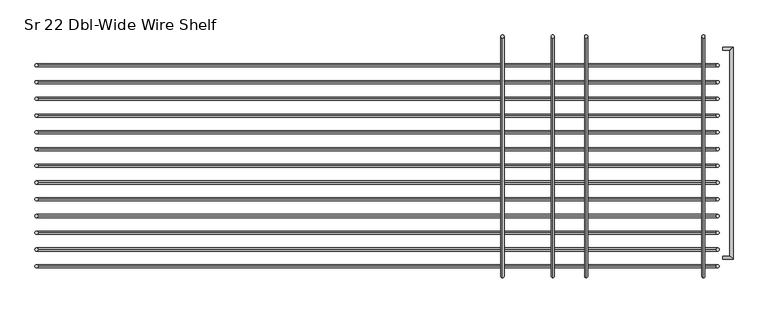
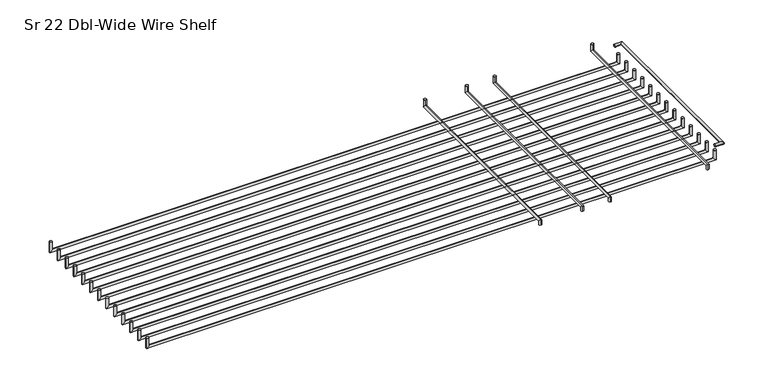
"""IFC4 building model written with IfcOpenShell, lengths in millimetres: furniture geometry, HermanMiller_Carts_CT521_CartShelf : Sr 22 Dbl-Wide Wire Shelf."""

from ifc_helpers import new_model, si_unit, frame, origin, place, context, project, spatial, circle_curve, ellipse_curve, source, transform, mapped, element, save
from ifc_brep_helpers import plane_surface, cylinder_surface, advanced_brep


def sr_22_dbl_wide_wire_shelf_730dbcda(model_context):
    return source(origin(), model_context, "Body", "AdvancedBrep", [
        advanced_brep(
        [(743.3373883, -178.26736, 2242.3501), (743.3373883, -183.04256, 2242.3501), (743.3373883, 133.81736, 2242.3501), (743.3373883, 138.59256, 2242.3501), (759.2123883, -183.04256, 2242.3501), (754.4371883, -178.26736, 2242.3501), (759.2123883, 138.59256, 2242.3501), (754.4371883, 133.81736, 2242.3501)],
        [
            (0, 1, circle_curve(frame((743.3373883, -180.65496, 2242.3501), z_axis=(-1.0, 0.0, 0.0), x_axis=(0.0, -1.0, 0.0)), 2.3876)),
            (1, 0, circle_curve(frame((743.3373883, -180.65496, 2242.3501), z_axis=(-1.0, 0.0, 0.0), x_axis=(0.0, -1.0, 0.0)), 2.3876)),
            (2, 3, circle_curve(frame((743.3373883, 136.20496, 2242.3501), z_axis=(-1.0, 0.0, 0.0), x_axis=(0.0, 1.0, 0.0)), 2.3876)),
            (3, 2, circle_curve(frame((743.3373883, 136.20496, 2242.3501), z_axis=(-1.0, 0.0, 0.0), x_axis=(0.0, 1.0, 0.0)), 2.3876)),
            (1, 4),
            (4, 5, ellipse_curve(frame((756.8247883, -180.65496, 2242.3501), z_axis=(-0.7071067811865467, -0.7071067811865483, 0.0), x_axis=(-0.7071067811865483, 0.7071067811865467, 0.0)), 3.3765763, 2.3876)),
            (5, 0),
            (5, 4, ellipse_curve(frame((756.8247883, -180.65496, 2242.3501), z_axis=(-0.7071067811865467, -0.7071067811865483, 0.0), x_axis=(-0.7071067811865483, 0.7071067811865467, 0.0)), 3.3765763, 2.3876)),
            (4, 6),
            (6, 7, ellipse_curve(frame((756.8247883, 136.20496, 2242.3501), z_axis=(0.7071067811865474, -0.7071067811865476, 0.0), x_axis=(-0.7071067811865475, -0.7071067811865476, 0.0)), 3.3765763, 2.3876)),
            (7, 5),
            (7, 6, ellipse_curve(frame((756.8247883, 136.20496, 2242.3501), z_axis=(0.7071067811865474, -0.7071067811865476, 0.0), x_axis=(-0.7071067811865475, -0.7071067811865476, 0.0)), 3.3765763, 2.3876)),
            (6, 3),
            (2, 7),
        ],
        [
            plane_surface(frame((743.3373883, -180.65496, 2242.3501), z_axis=(-1.0, 0.0, 0.0), x_axis=(0.0, 0.0, 1.0))),
            plane_surface(frame((743.3373883, 136.20496, 2242.3501), z_axis=(-1.0, 0.0, 0.0), x_axis=(0.0, 0.0, 1.0))),
            cylinder_surface(frame((743.3373883, -180.65496, 2242.3501), z_axis=(-1.0, 0.0, 0.0), x_axis=(0.0, -1.0, 0.0)), 2.3876),
            cylinder_surface(frame((756.8247883, -180.65496, 2242.3501), z_axis=(0.0, -1.0, 0.0), x_axis=(1.0, 0.0, 0.0)), 2.3876),
            cylinder_surface(frame((756.8247883, 136.20496, 2242.3501), z_axis=(1.0, 0.0, 0.0), x_axis=(0.0, 1.0, 0.0)), 2.3876),
        ],
        [
            (0, [[1, 2]]),
            (1, [[3, 4]]),
            (2, [[5, 6, 7, -2]]),
            (2, [[-7, 8, -5, -1]]),
            (3, [[9, 10, 11, -6]]),
            (3, [[-11, 12, -9, -8]]),
            (4, [[13, -3, 14, -10]]),
            (4, [[-14, -4, -13, -12]]),
        ],
    ),
        advanced_brep(
        [(733.4732983, 34.925, 2244.7377), (738.2357983, 34.925, 2244.7377), (733.4732983, 34.925, 2229.4596), (738.2357983, 34.925, 2224.6971), (-295.1886017, 34.925, 2229.4596), (-299.9511017, 34.925, 2224.6971), (-295.1886017, 34.925, 2244.7377), (-299.9511017, 34.925, 2244.7377)],
        [
            (0, 1, circle_curve(frame((735.8545483, 34.925, 2244.7377), z_axis=(0.0, 0.0, 1.0), x_axis=(1.0, 0.0, 0.0)), 2.38125)),
            (1, 0, circle_curve(frame((735.8545483, 34.925, 2244.7377), z_axis=(0.0, 0.0, 1.0), x_axis=(1.0, 0.0, 0.0)), 2.38125)),
            (0, 2),
            (2, 3, ellipse_curve(frame((735.8545483, 34.925, 2227.07835), z_axis=(0.7071067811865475, 0.0, 0.7071067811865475), x_axis=(-0.7071067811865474, 0.0, 0.7071067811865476)), 3.367596, 2.38125)),
            (3, 1),
            (3, 2, ellipse_curve(frame((735.8545483, 34.925, 2227.07835), z_axis=(0.7071067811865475, 0.0, 0.7071067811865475), x_axis=(-0.7071067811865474, 0.0, 0.7071067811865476)), 3.367596, 2.38125)),
            (2, 4),
            (4, 5, ellipse_curve(frame((-297.5698517, 34.925, 2227.07835), z_axis=(0.7071067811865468, 0.0, -0.7071067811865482), x_axis=(0.7071067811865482, 0.0, 0.7071067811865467)), 3.367596, 2.38125)),
            (5, 3),
            (5, 4, ellipse_curve(frame((-297.5698517, 34.925, 2227.07835), z_axis=(0.7071067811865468, 0.0, -0.7071067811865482), x_axis=(0.7071067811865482, 0.0, 0.7071067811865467)), 3.367596, 2.38125)),
            (6, 7, circle_curve(frame((-297.5698517, 34.925, 2244.7377), z_axis=(0.0, 0.0, 1.0), x_axis=(-1.0, 0.0, 0.0)), 2.38125)),
            (7, 6, circle_curve(frame((-297.5698517, 34.925, 2244.7377), z_axis=(0.0, 0.0, 1.0), x_axis=(-1.0, 0.0, 0.0)), 2.38125)),
            (4, 6),
            (7, 5),
        ],
        [
            plane_surface(frame((735.8545483, 34.925, 2244.7377), z_axis=(0.0, 0.0, 1.0), x_axis=(0.0, -1.0, 0.0))),
            cylinder_surface(frame((735.8545483, 34.925, 2244.7377), z_axis=(0.0, 0.0, 1.0), x_axis=(1.0, 0.0, 0.0)), 2.38125),
            cylinder_surface(frame((735.8545483, 34.925, 2227.07835), z_axis=(1.0, 0.0, 0.0), x_axis=(0.0, 0.0, -1.0)), 2.38125),
            plane_surface(frame((-297.5698517, 34.925, 2244.7377), z_axis=(0.0, 0.0, 1.0), x_axis=(0.0, -1.0, 0.0))),
            cylinder_surface(frame((-297.5698517, 34.925, 2227.07835), z_axis=(0.0, 0.0, -1.0), x_axis=(-1.0, 0.0, 0.0)), 2.38125),
        ],
        [
            (0, [[1, 2]]),
            (1, [[-1, 3, 4, 5]]),
            (1, [[-2, -5, 6, -3]]),
            (2, [[-4, 7, 8, 9]]),
            (2, [[-6, -9, 10, -7]]),
            (3, [[11, 12]]),
            (4, [[-8, 13, -12, 14]]),
            (4, [[-10, -14, -11, -13]]),
        ],
    ),
        advanced_brep(
        [(733.4732983, -15.875, 2244.7377), (738.2357983, -15.875, 2244.7377), (733.4732983, -15.875, 2229.4596), (738.2357983, -15.875, 2224.6971), (-295.1886017, -15.875, 2229.4596), (-299.9511017, -15.875, 2224.6971), (-295.1886017, -15.875, 2244.7377), (-299.9511017, -15.875, 2244.7377)],
        [
            (0, 1, circle_curve(frame((735.8545483, -15.875, 2244.7377), z_axis=(0.0, 0.0, 1.0), x_axis=(1.0, 0.0, 0.0)), 2.38125)),
            (1, 0, circle_curve(frame((735.8545483, -15.875, 2244.7377), z_axis=(0.0, 0.0, 1.0), x_axis=(1.0, 0.0, 0.0)), 2.38125)),
            (0, 2),
            (2, 3, ellipse_curve(frame((735.8545483, -15.875, 2227.07835), z_axis=(0.7071067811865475, 0.0, 0.7071067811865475), x_axis=(-0.7071067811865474, 0.0, 0.7071067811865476)), 3.367596, 2.38125)),
            (3, 1),
            (3, 2, ellipse_curve(frame((735.8545483, -15.875, 2227.07835), z_axis=(0.7071067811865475, 0.0, 0.7071067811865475), x_axis=(-0.7071067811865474, 0.0, 0.7071067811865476)), 3.367596, 2.38125)),
            (2, 4),
            (4, 5, ellipse_curve(frame((-297.5698517, -15.875, 2227.07835), z_axis=(0.7071067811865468, 0.0, -0.7071067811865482), x_axis=(0.7071067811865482, 0.0, 0.7071067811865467)), 3.367596, 2.38125)),
            (5, 3),
            (5, 4, ellipse_curve(frame((-297.5698517, -15.875, 2227.07835), z_axis=(0.7071067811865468, 0.0, -0.7071067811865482), x_axis=(0.7071067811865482, 0.0, 0.7071067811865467)), 3.367596, 2.38125)),
            (6, 7, circle_curve(frame((-297.5698517, -15.875, 2244.7377), z_axis=(0.0, 0.0, 1.0), x_axis=(-1.0, 0.0, 0.0)), 2.38125)),
            (7, 6, circle_curve(frame((-297.5698517, -15.875, 2244.7377), z_axis=(0.0, 0.0, 1.0), x_axis=(-1.0, 0.0, 0.0)), 2.38125)),
            (4, 6),
            (7, 5),
        ],
        [
            plane_surface(frame((735.8545483, -15.875, 2244.7377), z_axis=(0.0, 0.0, 1.0), x_axis=(0.0, -1.0, 0.0))),
            cylinder_surface(frame((735.8545483, -15.875, 2244.7377), z_axis=(0.0, 0.0, 1.0), x_axis=(1.0, 0.0, 0.0)), 2.38125),
            cylinder_surface(frame((735.8545483, -15.875, 2227.07835), z_axis=(1.0, 0.0, 0.0), x_axis=(0.0, 0.0, -1.0)), 2.38125),
            plane_surface(frame((-297.5698517, -15.875, 2244.7377), z_axis=(0.0, 0.0, 1.0), x_axis=(0.0, -1.0, 0.0))),
            cylinder_surface(frame((-297.5698517, -15.875, 2227.07835), z_axis=(0.0, 0.0, -1.0), x_axis=(-1.0, 0.0, 0.0)), 2.38125),
        ],
        [
            (0, [[1, 2]]),
            (1, [[-1, 3, 4, 5]]),
            (1, [[-2, -5, 6, -3]]),
            (2, [[-4, 7, 8, 9]]),
            (2, [[-6, -9, 10, -7]]),
            (3, [[11, 12]]),
            (4, [[-8, 13, -12, 14]]),
            (4, [[-10, -14, -11, -13]]),
        ],
    ),
        advanced_brep(
        [(733.4732983, -66.675, 2244.7377), (738.2357983, -66.675, 2244.7377), (733.4732983, -66.675, 2229.4596), (738.2357983, -66.675, 2224.6971), (-295.1886017, -66.675, 2229.4596), (-299.9511017, -66.675, 2224.6971), (-295.1886017, -66.675, 2244.7377), (-299.9511017, -66.675, 2244.7377)],
        [
            (0, 1, circle_curve(frame((735.8545483, -66.675, 2244.7377), z_axis=(0.0, 0.0, 1.0), x_axis=(1.0, 0.0, 0.0)), 2.38125)),
            (1, 0, circle_curve(frame((735.8545483, -66.675, 2244.7377), z_axis=(0.0, 0.0, 1.0), x_axis=(1.0, 0.0, 0.0)), 2.38125)),
            (0, 2),
            (2, 3, ellipse_curve(frame((735.8545483, -66.675, 2227.07835), z_axis=(0.7071067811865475, 0.0, 0.7071067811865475), x_axis=(-0.7071067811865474, 0.0, 0.7071067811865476)), 3.367596, 2.38125)),
            (3, 1),
            (3, 2, ellipse_curve(frame((735.8545483, -66.675, 2227.07835), z_axis=(0.7071067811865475, 0.0, 0.7071067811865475), x_axis=(-0.7071067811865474, 0.0, 0.7071067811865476)), 3.367596, 2.38125)),
            (2, 4),
            (4, 5, ellipse_curve(frame((-297.5698517, -66.675, 2227.07835), z_axis=(0.7071067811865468, 0.0, -0.7071067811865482), x_axis=(0.7071067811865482, 0.0, 0.7071067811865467)), 3.367596, 2.38125)),
            (5, 3),
            (5, 4, ellipse_curve(frame((-297.5698517, -66.675, 2227.07835), z_axis=(0.7071067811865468, 0.0, -0.7071067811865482), x_axis=(0.7071067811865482, 0.0, 0.7071067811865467)), 3.367596, 2.38125)),
            (6, 7, circle_curve(frame((-297.5698517, -66.675, 2244.7377), z_axis=(0.0, 0.0, 1.0), x_axis=(-1.0, 0.0, 0.0)), 2.38125)),
            (7, 6, circle_curve(frame((-297.5698517, -66.675, 2244.7377), z_axis=(0.0, 0.0, 1.0), x_axis=(-1.0, 0.0, 0.0)), 2.38125)),
            (4, 6),
            (7, 5),
        ],
        [
            plane_surface(frame((735.8545483, -66.675, 2244.7377), z_axis=(0.0, 0.0, 1.0), x_axis=(0.0, -1.0, 0.0))),
            cylinder_surface(frame((735.8545483, -66.675, 2244.7377), z_axis=(0.0, 0.0, 1.0), x_axis=(1.0, 0.0, 0.0)), 2.38125),
            cylinder_surface(frame((735.8545483, -66.675, 2227.07835), z_axis=(1.0, 0.0, 0.0), x_axis=(0.0, 0.0, -1.0)), 2.38125),
            plane_surface(frame((-297.5698517, -66.675, 2244.7377), z_axis=(0.0, 0.0, 1.0), x_axis=(0.0, -1.0, 0.0))),
            cylinder_surface(frame((-297.5698517, -66.675, 2227.07835), z_axis=(0.0, 0.0, -1.0), x_axis=(-1.0, 0.0, 0.0)), 2.38125),
        ],
        [
            (0, [[1, 2]]),
            (1, [[-1, 3, 4, 5]]),
            (1, [[-2, -5, 6, -3]]),
            (2, [[-4, 7, 8, 9]]),
            (2, [[-6, -9, 10, -7]]),
            (3, [[11, 12]]),
            (4, [[-8, 13, -12, 14]]),
            (4, [[-10, -14, -11, -13]]),
        ],
    ),
        advanced_brep(
        [(733.4732983, -117.475, 2244.7377), (738.2357983, -117.475, 2244.7377), (733.4732983, -117.475, 2229.4596), (738.2357983, -117.475, 2224.6971), (-295.1886017, -117.475, 2229.4596), (-299.9511017, -117.475, 2224.6971), (-295.1886017, -117.475, 2244.7377), (-299.9511017, -117.475, 2244.7377)],
        [
            (0, 1, circle_curve(frame((735.8545483, -117.475, 2244.7377), z_axis=(0.0, 0.0, 1.0), x_axis=(1.0, 0.0, 0.0)), 2.38125)),
            (1, 0, circle_curve(frame((735.8545483, -117.475, 2244.7377), z_axis=(0.0, 0.0, 1.0), x_axis=(1.0, 0.0, 0.0)), 2.38125)),
            (0, 2),
            (2, 3, ellipse_curve(frame((735.8545483, -117.475, 2227.07835), z_axis=(0.7071067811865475, 0.0, 0.7071067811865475), x_axis=(-0.7071067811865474, 0.0, 0.7071067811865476)), 3.367596, 2.38125)),
            (3, 1),
            (3, 2, ellipse_curve(frame((735.8545483, -117.475, 2227.07835), z_axis=(0.7071067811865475, 0.0, 0.7071067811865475), x_axis=(-0.7071067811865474, 0.0, 0.7071067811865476)), 3.367596, 2.38125)),
            (2, 4),
            (4, 5, ellipse_curve(frame((-297.5698517, -117.475, 2227.07835), z_axis=(0.7071067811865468, 0.0, -0.7071067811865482), x_axis=(0.7071067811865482, 0.0, 0.7071067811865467)), 3.367596, 2.38125)),
            (5, 3),
            (5, 4, ellipse_curve(frame((-297.5698517, -117.475, 2227.07835), z_axis=(0.7071067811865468, 0.0, -0.7071067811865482), x_axis=(0.7071067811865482, 0.0, 0.7071067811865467)), 3.367596, 2.38125)),
            (6, 7, circle_curve(frame((-297.5698517, -117.475, 2244.7377), z_axis=(0.0, 0.0, 1.0), x_axis=(-1.0, 0.0, 0.0)), 2.38125)),
            (7, 6, circle_curve(frame((-297.5698517, -117.475, 2244.7377), z_axis=(0.0, 0.0, 1.0), x_axis=(-1.0, 0.0, 0.0)), 2.38125)),
            (4, 6),
            (7, 5),
        ],
        [
            plane_surface(frame((735.8545483, -117.475, 2244.7377), z_axis=(0.0, 0.0, 1.0), x_axis=(0.0, -1.0, 0.0))),
            cylinder_surface(frame((735.8545483, -117.475, 2244.7377), z_axis=(0.0, 0.0, 1.0), x_axis=(1.0, 0.0, 0.0)), 2.38125),
            cylinder_surface(frame((735.8545483, -117.475, 2227.07835), z_axis=(1.0, 0.0, 0.0), x_axis=(0.0, 0.0, -1.0)), 2.38125),
            plane_surface(frame((-297.5698517, -117.475, 2244.7377), z_axis=(0.0, 0.0, 1.0), x_axis=(0.0, -1.0, 0.0))),
            cylinder_surface(frame((-297.5698517, -117.475, 2227.07835), z_axis=(0.0, 0.0, -1.0), x_axis=(-1.0, 0.0, 0.0)), 2.38125),
        ],
        [
            (0, [[1, 2]]),
            (1, [[-1, 3, 4, 5]]),
            (1, [[-2, -5, 6, -3]]),
            (2, [[-4, 7, 8, 9]]),
            (2, [[-6, -9, 10, -7]]),
            (3, [[11, 12]]),
            (4, [[-8, 13, -12, 14]]),
            (4, [[-10, -14, -11, -13]]),
        ],
    ),
        advanced_brep(
        [(733.4732983, -168.275, 2244.7377), (738.2357983, -168.275, 2244.7377), (733.4732983, -168.275, 2229.4596), (738.2357983, -168.275, 2224.6971), (-295.1886017, -168.275, 2229.4596), (-299.9511017, -168.275, 2224.6971), (-295.1886017, -168.275, 2244.7377), (-299.9511017, -168.275, 2244.7377)],
        [
            (0, 1, circle_curve(frame((735.8545483, -168.275, 2244.7377), z_axis=(0.0, 0.0, 1.0), x_axis=(1.0, 0.0, 0.0)), 2.38125)),
            (1, 0, circle_curve(frame((735.8545483, -168.275, 2244.7377), z_axis=(0.0, 0.0, 1.0), x_axis=(1.0, 0.0, 0.0)), 2.38125)),
            (0, 2),
            (2, 3, ellipse_curve(frame((735.8545483, -168.275, 2227.07835), z_axis=(0.7071067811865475, 0.0, 0.7071067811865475), x_axis=(-0.7071067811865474, 0.0, 0.7071067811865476)), 3.367596, 2.38125)),
            (3, 1),
            (3, 2, ellipse_curve(frame((735.8545483, -168.275, 2227.07835), z_axis=(0.7071067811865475, 0.0, 0.7071067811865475), x_axis=(-0.7071067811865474, 0.0, 0.7071067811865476)), 3.367596, 2.38125)),
            (2, 4),
            (4, 5, ellipse_curve(frame((-297.5698517, -168.275, 2227.07835), z_axis=(0.7071067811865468, 0.0, -0.7071067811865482), x_axis=(0.7071067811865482, 0.0, 0.7071067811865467)), 3.367596, 2.38125)),
            (5, 3),
            (5, 4, ellipse_curve(frame((-297.5698517, -168.275, 2227.07835), z_axis=(0.7071067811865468, 0.0, -0.7071067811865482), x_axis=(0.7071067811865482, 0.0, 0.7071067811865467)), 3.367596, 2.38125)),
            (6, 7, circle_curve(frame((-297.5698517, -168.275, 2244.7377), z_axis=(0.0, 0.0, 1.0), x_axis=(-1.0, 0.0, 0.0)), 2.38125)),
            (7, 6, circle_curve(frame((-297.5698517, -168.275, 2244.7377), z_axis=(0.0, 0.0, 1.0), x_axis=(-1.0, 0.0, 0.0)), 2.38125)),
            (4, 6),
            (7, 5),
        ],
        [
            plane_surface(frame((735.8545483, -168.275, 2244.7377), z_axis=(0.0, 0.0, 1.0), x_axis=(0.0, -1.0, 0.0))),
            cylinder_surface(frame((735.8545483, -168.275, 2244.7377), z_axis=(0.0, 0.0, 1.0), x_axis=(1.0, 0.0, 0.0)), 2.38125),
            cylinder_surface(frame((735.8545483, -168.275, 2227.07835), z_axis=(1.0, 0.0, 0.0), x_axis=(0.0, 0.0, -1.0)), 2.38125),
            plane_surface(frame((-297.5698517, -168.275, 2244.7377), z_axis=(0.0, 0.0, 1.0), x_axis=(0.0, -1.0, 0.0))),
            cylinder_surface(frame((-297.5698517, -168.275, 2227.07835), z_axis=(0.0, 0.0, -1.0), x_axis=(-1.0, 0.0, 0.0)), 2.38125),
        ],
        [
            (0, [[1, 2]]),
            (1, [[-1, 3, 4, 5]]),
            (1, [[-2, -5, 6, -3]]),
            (2, [[-4, 7, 8, 9]]),
            (2, [[-6, -9, 10, -7]]),
            (3, [[11, 12]]),
            (4, [[-8, 13, -12, 14]]),
            (4, [[-10, -14, -11, -13]]),
        ],
    ),
        advanced_brep(
        [(733.4732983, -193.675, 2244.7377), (738.2357983, -193.675, 2244.7377), (733.4732983, -193.675, 2229.4596), (738.2357983, -193.675, 2224.6971), (-295.1886017, -193.675, 2229.4596), (-299.9511017, -193.675, 2224.6971), (-295.1886017, -193.675, 2244.7377), (-299.9511017, -193.675, 2244.7377)],
        [
            (0, 1, circle_curve(frame((735.8545483, -193.675, 2244.7377), z_axis=(0.0, 0.0, 1.0), x_axis=(1.0, 0.0, 0.0)), 2.38125)),
            (1, 0, circle_curve(frame((735.8545483, -193.675, 2244.7377), z_axis=(0.0, 0.0, 1.0), x_axis=(1.0, 0.0, 0.0)), 2.38125)),
            (0, 2),
            (2, 3, ellipse_curve(frame((735.8545483, -193.675, 2227.07835), z_axis=(0.7071067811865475, 0.0, 0.7071067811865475), x_axis=(-0.7071067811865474, 0.0, 0.7071067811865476)), 3.367596, 2.38125)),
            (3, 1),
            (3, 2, ellipse_curve(frame((735.8545483, -193.675, 2227.07835), z_axis=(0.7071067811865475, 0.0, 0.7071067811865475), x_axis=(-0.7071067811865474, 0.0, 0.7071067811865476)), 3.367596, 2.38125)),
            (2, 4),
            (4, 5, ellipse_curve(frame((-297.5698517, -193.675, 2227.07835), z_axis=(0.7071067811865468, 0.0, -0.7071067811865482), x_axis=(0.7071067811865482, 0.0, 0.7071067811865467)), 3.367596, 2.38125)),
            (5, 3),
            (5, 4, ellipse_curve(frame((-297.5698517, -193.675, 2227.07835), z_axis=(0.7071067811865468, 0.0, -0.7071067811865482), x_axis=(0.7071067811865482, 0.0, 0.7071067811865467)), 3.367596, 2.38125)),
            (6, 7, circle_curve(frame((-297.5698517, -193.675, 2244.7377), z_axis=(0.0, 0.0, 1.0), x_axis=(-1.0, 0.0, 0.0)), 2.38125)),
            (7, 6, circle_curve(frame((-297.5698517, -193.675, 2244.7377), z_axis=(0.0, 0.0, 1.0), x_axis=(-1.0, 0.0, 0.0)), 2.38125)),
            (4, 6),
            (7, 5),
        ],
        [
            plane_surface(frame((735.8545483, -193.675, 2244.7377), z_axis=(0.0, 0.0, 1.0), x_axis=(0.0, -1.0, 0.0))),
            cylinder_surface(frame((735.8545483, -193.675, 2244.7377), z_axis=(0.0, 0.0, 1.0), x_axis=(1.0, 0.0, 0.0)), 2.38125),
            cylinder_surface(frame((735.8545483, -193.675, 2227.07835), z_axis=(1.0, 0.0, 0.0), x_axis=(0.0, 0.0, -1.0)), 2.38125),
            plane_surface(frame((-297.5698517, -193.675, 2244.7377), z_axis=(0.0, 0.0, 1.0), x_axis=(0.0, -1.0, 0.0))),
            cylinder_surface(frame((-297.5698517, -193.675, 2227.07835), z_axis=(0.0, 0.0, -1.0), x_axis=(-1.0, 0.0, 0.0)), 2.38125),
        ],
        [
            (0, [[1, 2]]),
            (1, [[-1, 3, 4, 5]]),
            (1, [[-2, -5, 6, -3]]),
            (2, [[-4, 7, 8, 9]]),
            (2, [[-6, -9, 10, -7]]),
            (3, [[11, 12]]),
            (4, [[-8, 13, -12, 14]]),
            (4, [[-10, -14, -11, -13]]),
        ],
    ),
        advanced_brep(
        [(733.4732983, -142.875, 2244.7377), (738.2357983, -142.875, 2244.7377), (733.4732983, -142.875, 2229.4596), (738.2357983, -142.875, 2224.6971), (-295.1886017, -142.875, 2229.4596), (-299.9511017, -142.875, 2224.6971), (-295.1886017, -142.875, 2244.7377), (-299.9511017, -142.875, 2244.7377)],
        [
            (0, 1, circle_curve(frame((735.8545483, -142.875, 2244.7377), z_axis=(0.0, 0.0, 1.0), x_axis=(1.0, 0.0, 0.0)), 2.38125)),
            (1, 0, circle_curve(frame((735.8545483, -142.875, 2244.7377), z_axis=(0.0, 0.0, 1.0), x_axis=(1.0, 0.0, 0.0)), 2.38125)),
            (0, 2),
            (2, 3, ellipse_curve(frame((735.8545483, -142.875, 2227.07835), z_axis=(0.7071067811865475, 0.0, 0.7071067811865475), x_axis=(-0.7071067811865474, 0.0, 0.7071067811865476)), 3.367596, 2.38125)),
            (3, 1),
            (3, 2, ellipse_curve(frame((735.8545483, -142.875, 2227.07835), z_axis=(0.7071067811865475, 0.0, 0.7071067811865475), x_axis=(-0.7071067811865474, 0.0, 0.7071067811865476)), 3.367596, 2.38125)),
            (2, 4),
            (4, 5, ellipse_curve(frame((-297.5698517, -142.875, 2227.07835), z_axis=(0.7071067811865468, 0.0, -0.7071067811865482), x_axis=(0.7071067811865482, 0.0, 0.7071067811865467)), 3.367596, 2.38125)),
            (5, 3),
            (5, 4, ellipse_curve(frame((-297.5698517, -142.875, 2227.07835), z_axis=(0.7071067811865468, 0.0, -0.7071067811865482), x_axis=(0.7071067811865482, 0.0, 0.7071067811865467)), 3.367596, 2.38125)),
            (6, 7, circle_curve(frame((-297.5698517, -142.875, 2244.7377), z_axis=(0.0, 0.0, 1.0), x_axis=(-1.0, 0.0, 0.0)), 2.38125)),
            (7, 6, circle_curve(frame((-297.5698517, -142.875, 2244.7377), z_axis=(0.0, 0.0, 1.0), x_axis=(-1.0, 0.0, 0.0)), 2.38125)),
            (4, 6),
            (7, 5),
        ],
        [
            plane_surface(frame((735.8545483, -142.875, 2244.7377), z_axis=(0.0, 0.0, 1.0), x_axis=(0.0, -1.0, 0.0))),
            cylinder_surface(frame((735.8545483, -142.875, 2244.7377), z_axis=(0.0, 0.0, 1.0), x_axis=(1.0, 0.0, 0.0)), 2.38125),
            cylinder_surface(frame((735.8545483, -142.875, 2227.07835), z_axis=(1.0, 0.0, 0.0), x_axis=(0.0, 0.0, -1.0)), 2.38125),
            plane_surface(frame((-297.5698517, -142.875, 2244.7377), z_axis=(0.0, 0.0, 1.0), x_axis=(0.0, -1.0, 0.0))),
            cylinder_surface(frame((-297.5698517, -142.875, 2227.07835), z_axis=(0.0, 0.0, -1.0), x_axis=(-1.0, 0.0, 0.0)), 2.38125),
        ],
        [
            (0, [[1, 2]]),
            (1, [[-1, 3, 4, 5]]),
            (1, [[-2, -5, 6, -3]]),
            (2, [[-4, 7, 8, 9]]),
            (2, [[-6, -9, 10, -7]]),
            (3, [[11, 12]]),
            (4, [[-8, 13, -12, 14]]),
            (4, [[-10, -14, -11, -13]]),
        ],
    ),
        advanced_brep(
        [(733.4732983, -92.075, 2244.7377), (738.2357983, -92.075, 2244.7377), (733.4732983, -92.075, 2229.4596), (738.2357983, -92.075, 2224.6971), (-295.1886017, -92.075, 2229.4596), (-299.9511017, -92.075, 2224.6971), (-295.1886017, -92.075, 2244.7377), (-299.9511017, -92.075, 2244.7377)],
        [
            (0, 1, circle_curve(frame((735.8545483, -92.075, 2244.7377), z_axis=(0.0, 0.0, 1.0), x_axis=(1.0, 0.0, 0.0)), 2.38125)),
            (1, 0, circle_curve(frame((735.8545483, -92.075, 2244.7377), z_axis=(0.0, 0.0, 1.0), x_axis=(1.0, 0.0, 0.0)), 2.38125)),
            (0, 2),
            (2, 3, ellipse_curve(frame((735.8545483, -92.075, 2227.07835), z_axis=(0.7071067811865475, 0.0, 0.7071067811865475), x_axis=(-0.7071067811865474, 0.0, 0.7071067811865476)), 3.367596, 2.38125)),
            (3, 1),
            (3, 2, ellipse_curve(frame((735.8545483, -92.075, 2227.07835), z_axis=(0.7071067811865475, 0.0, 0.7071067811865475), x_axis=(-0.7071067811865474, 0.0, 0.7071067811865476)), 3.367596, 2.38125)),
            (2, 4),
            (4, 5, ellipse_curve(frame((-297.5698517, -92.075, 2227.07835), z_axis=(0.7071067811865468, 0.0, -0.7071067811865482), x_axis=(0.7071067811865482, 0.0, 0.7071067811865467)), 3.367596, 2.38125)),
            (5, 3),
            (5, 4, ellipse_curve(frame((-297.5698517, -92.075, 2227.07835), z_axis=(0.7071067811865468, 0.0, -0.7071067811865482), x_axis=(0.7071067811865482, 0.0, 0.7071067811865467)), 3.367596, 2.38125)),
            (6, 7, circle_curve(frame((-297.5698517, -92.075, 2244.7377), z_axis=(0.0, 0.0, 1.0), x_axis=(-1.0, 0.0, 0.0)), 2.38125)),
            (7, 6, circle_curve(frame((-297.5698517, -92.075, 2244.7377), z_axis=(0.0, 0.0, 1.0), x_axis=(-1.0, 0.0, 0.0)), 2.38125)),
            (4, 6),
            (7, 5),
        ],
        [
            plane_surface(frame((735.8545483, -92.075, 2244.7377), z_axis=(0.0, 0.0, 1.0), x_axis=(0.0, -1.0, 0.0))),
            cylinder_surface(frame((735.8545483, -92.075, 2244.7377), z_axis=(0.0, 0.0, 1.0), x_axis=(1.0, 0.0, 0.0)), 2.38125),
            cylinder_surface(frame((735.8545483, -92.075, 2227.07835), z_axis=(1.0, 0.0, 0.0), x_axis=(0.0, 0.0, -1.0)), 2.38125),
            plane_surface(frame((-297.5698517, -92.075, 2244.7377), z_axis=(0.0, 0.0, 1.0), x_axis=(0.0, -1.0, 0.0))),
            cylinder_surface(frame((-297.5698517, -92.075, 2227.07835), z_axis=(0.0, 0.0, -1.0), x_axis=(-1.0, 0.0, 0.0)), 2.38125),
        ],
        [
            (0, [[1, 2]]),
            (1, [[-1, 3, 4, 5]]),
            (1, [[-2, -5, 6, -3]]),
            (2, [[-4, 7, 8, 9]]),
            (2, [[-6, -9, 10, -7]]),
            (3, [[11, 12]]),
            (4, [[-8, 13, -12, 14]]),
            (4, [[-10, -14, -11, -13]]),
        ],
    ),
        advanced_brep(
        [(733.4732983, -41.275, 2244.7377), (738.2357983, -41.275, 2244.7377), (733.4732983, -41.275, 2229.4596), (738.2357983, -41.275, 2224.6971), (-295.1886017, -41.275, 2229.4596), (-299.9511017, -41.275, 2224.6971), (-295.1886017, -41.275, 2244.7377), (-299.9511017, -41.275, 2244.7377)],
        [
            (0, 1, circle_curve(frame((735.8545483, -41.275, 2244.7377), z_axis=(0.0, 0.0, 1.0), x_axis=(1.0, 0.0, 0.0)), 2.38125)),
            (1, 0, circle_curve(frame((735.8545483, -41.275, 2244.7377), z_axis=(0.0, 0.0, 1.0), x_axis=(1.0, 0.0, 0.0)), 2.38125)),
            (0, 2),
            (2, 3, ellipse_curve(frame((735.8545483, -41.275, 2227.07835), z_axis=(0.7071067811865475, 0.0, 0.7071067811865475), x_axis=(-0.7071067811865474, 0.0, 0.7071067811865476)), 3.367596, 2.38125)),
            (3, 1),
            (3, 2, ellipse_curve(frame((735.8545483, -41.275, 2227.07835), z_axis=(0.7071067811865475, 0.0, 0.7071067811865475), x_axis=(-0.7071067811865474, 0.0, 0.7071067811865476)), 3.367596, 2.38125)),
            (2, 4),
            (4, 5, ellipse_curve(frame((-297.5698517, -41.275, 2227.07835), z_axis=(0.7071067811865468, 0.0, -0.7071067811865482), x_axis=(0.7071067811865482, 0.0, 0.7071067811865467)), 3.367596, 2.38125)),
            (5, 3),
            (5, 4, ellipse_curve(frame((-297.5698517, -41.275, 2227.07835), z_axis=(0.7071067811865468, 0.0, -0.7071067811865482), x_axis=(0.7071067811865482, 0.0, 0.7071067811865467)), 3.367596, 2.38125)),
            (6, 7, circle_curve(frame((-297.5698517, -41.275, 2244.7377), z_axis=(0.0, 0.0, 1.0), x_axis=(-1.0, 0.0, 0.0)), 2.38125)),
            (7, 6, circle_curve(frame((-297.5698517, -41.275, 2244.7377), z_axis=(0.0, 0.0, 1.0), x_axis=(-1.0, 0.0, 0.0)), 2.38125)),
            (4, 6),
            (7, 5),
        ],
        [
            plane_surface(frame((735.8545483, -41.275, 2244.7377), z_axis=(0.0, 0.0, 1.0), x_axis=(0.0, -1.0, 0.0))),
            cylinder_surface(frame((735.8545483, -41.275, 2244.7377), z_axis=(0.0, 0.0, 1.0), x_axis=(1.0, 0.0, 0.0)), 2.38125),
            cylinder_surface(frame((735.8545483, -41.275, 2227.07835), z_axis=(1.0, 0.0, 0.0), x_axis=(0.0, 0.0, -1.0)), 2.38125),
            plane_surface(frame((-297.5698517, -41.275, 2244.7377), z_axis=(0.0, 0.0, 1.0), x_axis=(0.0, -1.0, 0.0))),
            cylinder_surface(frame((-297.5698517, -41.275, 2227.07835), z_axis=(0.0, 0.0, -1.0), x_axis=(-1.0, 0.0, 0.0)), 2.38125),
        ],
        [
            (0, [[1, 2]]),
            (1, [[-1, 3, 4, 5]]),
            (1, [[-2, -5, 6, -3]]),
            (2, [[-4, 7, 8, 9]]),
            (2, [[-6, -9, 10, -7]]),
            (3, [[11, 12]]),
            (4, [[-8, 13, -12, 14]]),
            (4, [[-10, -14, -11, -13]]),
        ],
    ),
        advanced_brep(
        [(733.4732983, 9.525, 2244.7377), (738.2357983, 9.525, 2244.7377), (733.4732983, 9.525, 2229.4596), (738.2357983, 9.525, 2224.6971), (-295.1886017, 9.525, 2229.4596), (-299.9511017, 9.525, 2224.6971), (-295.1886017, 9.525, 2244.7377), (-299.9511017, 9.525, 2244.7377)],
        [
            (0, 1, circle_curve(frame((735.8545483, 9.525, 2244.7377), z_axis=(0.0, 0.0, 1.0), x_axis=(1.0, 0.0, 0.0)), 2.38125)),
            (1, 0, circle_curve(frame((735.8545483, 9.525, 2244.7377), z_axis=(0.0, 0.0, 1.0), x_axis=(1.0, 0.0, 0.0)), 2.38125)),
            (0, 2),
            (2, 3, ellipse_curve(frame((735.8545483, 9.525, 2227.07835), z_axis=(0.7071067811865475, 0.0, 0.7071067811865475), x_axis=(-0.7071067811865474, 0.0, 0.7071067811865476)), 3.367596, 2.38125)),
            (3, 1),
            (3, 2, ellipse_curve(frame((735.8545483, 9.525, 2227.07835), z_axis=(0.7071067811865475, 0.0, 0.7071067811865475), x_axis=(-0.7071067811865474, 0.0, 0.7071067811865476)), 3.367596, 2.38125)),
            (2, 4),
            (4, 5, ellipse_curve(frame((-297.5698517, 9.525, 2227.07835), z_axis=(0.7071067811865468, 0.0, -0.7071067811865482), x_axis=(0.7071067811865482, 0.0, 0.7071067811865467)), 3.367596, 2.38125)),
            (5, 3),
            (5, 4, ellipse_curve(frame((-297.5698517, 9.525, 2227.07835), z_axis=(0.7071067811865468, 0.0, -0.7071067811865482), x_axis=(0.7071067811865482, 0.0, 0.7071067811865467)), 3.367596, 2.38125)),
            (6, 7, circle_curve(frame((-297.5698517, 9.525, 2244.7377), z_axis=(0.0, 0.0, 1.0), x_axis=(-1.0, 0.0, 0.0)), 2.38125)),
            (7, 6, circle_curve(frame((-297.5698517, 9.525, 2244.7377), z_axis=(0.0, 0.0, 1.0), x_axis=(-1.0, 0.0, 0.0)), 2.38125)),
            (4, 6),
            (7, 5),
        ],
        [
            plane_surface(frame((735.8545483, 9.525, 2244.7377), z_axis=(0.0, 0.0, 1.0), x_axis=(0.0, -1.0, 0.0))),
            cylinder_surface(frame((735.8545483, 9.525, 2244.7377), z_axis=(0.0, 0.0, 1.0), x_axis=(1.0, 0.0, 0.0)), 2.38125),
            cylinder_surface(frame((735.8545483, 9.525, 2227.07835), z_axis=(1.0, 0.0, 0.0), x_axis=(0.0, 0.0, -1.0)), 2.38125),
            plane_surface(frame((-297.5698517, 9.525, 2244.7377), z_axis=(0.0, 0.0, 1.0), x_axis=(0.0, -1.0, 0.0))),
            cylinder_surface(frame((-297.5698517, 9.525, 2227.07835), z_axis=(0.0, 0.0, -1.0), x_axis=(-1.0, 0.0, 0.0)), 2.38125),
        ],
        [
            (0, [[1, 2]]),
            (1, [[-1, 3, 4, 5]]),
            (1, [[-2, -5, 6, -3]]),
            (2, [[-4, 7, 8, 9]]),
            (2, [[-6, -9, 10, -7]]),
            (3, [[11, 12]]),
            (4, [[-8, 13, -12, 14]]),
            (4, [[-10, -14, -11, -13]]),
        ],
    ),
        advanced_brep(
        [(733.4732983, 60.325, 2244.7377), (738.2357983, 60.325, 2244.7377), (733.4732983, 60.325, 2229.4596), (738.2357983, 60.325, 2224.6971), (-295.1886017, 60.325, 2229.4596), (-299.9511017, 60.325, 2224.6971), (-295.1886017, 60.325, 2244.7377), (-299.9511017, 60.325, 2244.7377)],
        [
            (0, 1, circle_curve(frame((735.8545483, 60.325, 2244.7377), z_axis=(0.0, 0.0, 1.0), x_axis=(1.0, 0.0, 0.0)), 2.38125)),
            (1, 0, circle_curve(frame((735.8545483, 60.325, 2244.7377), z_axis=(0.0, 0.0, 1.0), x_axis=(1.0, 0.0, 0.0)), 2.38125)),
            (0, 2),
            (2, 3, ellipse_curve(frame((735.8545483, 60.325, 2227.07835), z_axis=(0.7071067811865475, 0.0, 0.7071067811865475), x_axis=(-0.7071067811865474, 0.0, 0.7071067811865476)), 3.367596, 2.38125)),
            (3, 1),
            (3, 2, ellipse_curve(frame((735.8545483, 60.325, 2227.07835), z_axis=(0.7071067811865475, 0.0, 0.7071067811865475), x_axis=(-0.7071067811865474, 0.0, 0.7071067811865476)), 3.367596, 2.38125)),
            (2, 4),
            (4, 5, ellipse_curve(frame((-297.5698517, 60.325, 2227.07835), z_axis=(0.7071067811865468, 0.0, -0.7071067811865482), x_axis=(0.7071067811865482, 0.0, 0.7071067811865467)), 3.367596, 2.38125)),
            (5, 3),
            (5, 4, ellipse_curve(frame((-297.5698517, 60.325, 2227.07835), z_axis=(0.7071067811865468, 0.0, -0.7071067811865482), x_axis=(0.7071067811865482, 0.0, 0.7071067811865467)), 3.367596, 2.38125)),
            (6, 7, circle_curve(frame((-297.5698517, 60.325, 2244.7377), z_axis=(0.0, 0.0, 1.0), x_axis=(-1.0, 0.0, 0.0)), 2.38125)),
            (7, 6, circle_curve(frame((-297.5698517, 60.325, 2244.7377), z_axis=(0.0, 0.0, 1.0), x_axis=(-1.0, 0.0, 0.0)), 2.38125)),
            (4, 6),
            (7, 5),
        ],
        [
            plane_surface(frame((735.8545483, 60.325, 2244.7377), z_axis=(0.0, 0.0, 1.0), x_axis=(0.0, -1.0, 0.0))),
            cylinder_surface(frame((735.8545483, 60.325, 2244.7377), z_axis=(0.0, 0.0, 1.0), x_axis=(1.0, 0.0, 0.0)), 2.38125),
            cylinder_surface(frame((735.8545483, 60.325, 2227.07835), z_axis=(1.0, 0.0, 0.0), x_axis=(0.0, 0.0, -1.0)), 2.38125),
            plane_surface(frame((-297.5698517, 60.325, 2244.7377), z_axis=(0.0, 0.0, 1.0), x_axis=(0.0, -1.0, 0.0))),
            cylinder_surface(frame((-297.5698517, 60.325, 2227.07835), z_axis=(0.0, 0.0, -1.0), x_axis=(-1.0, 0.0, 0.0)), 2.38125),
        ],
        [
            (0, [[1, 2]]),
            (1, [[-1, 3, 4, 5]]),
            (1, [[-2, -5, 6, -3]]),
            (2, [[-4, 7, 8, 9]]),
            (2, [[-6, -9, 10, -7]]),
            (3, [[11, 12]]),
            (4, [[-8, 13, -12, 14]]),
            (4, [[-10, -14, -11, -13]]),
        ],
    ),
        advanced_brep(
        [(733.4732983, 85.725, 2244.7377), (738.2357983, 85.725, 2244.7377), (733.4732983, 85.725, 2229.4596), (738.2357983, 85.725, 2224.6971), (-295.1886017, 85.725, 2229.4596), (-299.9511017, 85.725, 2224.6971), (-295.1886017, 85.725, 2244.7377), (-299.9511017, 85.725, 2244.7377)],
        [
            (0, 1, circle_curve(frame((735.8545483, 85.725, 2244.7377), z_axis=(0.0, 0.0, 1.0), x_axis=(1.0, 0.0, 0.0)), 2.38125)),
            (1, 0, circle_curve(frame((735.8545483, 85.725, 2244.7377), z_axis=(0.0, 0.0, 1.0), x_axis=(1.0, 0.0, 0.0)), 2.38125)),
            (0, 2),
            (2, 3, ellipse_curve(frame((735.8545483, 85.725, 2227.07835), z_axis=(0.7071067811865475, 0.0, 0.7071067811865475), x_axis=(-0.7071067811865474, 0.0, 0.7071067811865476)), 3.367596, 2.38125)),
            (3, 1),
            (3, 2, ellipse_curve(frame((735.8545483, 85.725, 2227.07835), z_axis=(0.7071067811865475, 0.0, 0.7071067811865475), x_axis=(-0.7071067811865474, 0.0, 0.7071067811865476)), 3.367596, 2.38125)),
            (2, 4),
            (4, 5, ellipse_curve(frame((-297.5698517, 85.725, 2227.07835), z_axis=(0.7071067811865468, 0.0, -0.7071067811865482), x_axis=(0.7071067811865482, 0.0, 0.7071067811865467)), 3.367596, 2.38125)),
            (5, 3),
            (5, 4, ellipse_curve(frame((-297.5698517, 85.725, 2227.07835), z_axis=(0.7071067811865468, 0.0, -0.7071067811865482), x_axis=(0.7071067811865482, 0.0, 0.7071067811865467)), 3.367596, 2.38125)),
            (6, 7, circle_curve(frame((-297.5698517, 85.725, 2244.7377), z_axis=(0.0, 0.0, 1.0), x_axis=(-1.0, 0.0, 0.0)), 2.38125)),
            (7, 6, circle_curve(frame((-297.5698517, 85.725, 2244.7377), z_axis=(0.0, 0.0, 1.0), x_axis=(-1.0, 0.0, 0.0)), 2.38125)),
            (4, 6),
            (7, 5),
        ],
        [
            plane_surface(frame((735.8545483, 85.725, 2244.7377), z_axis=(0.0, 0.0, 1.0), x_axis=(0.0, -1.0, 0.0))),
            cylinder_surface(frame((735.8545483, 85.725, 2244.7377), z_axis=(0.0, 0.0, 1.0), x_axis=(1.0, 0.0, 0.0)), 2.38125),
            cylinder_surface(frame((735.8545483, 85.725, 2227.07835), z_axis=(1.0, 0.0, 0.0), x_axis=(0.0, 0.0, -1.0)), 2.38125),
            plane_surface(frame((-297.5698517, 85.725, 2244.7377), z_axis=(0.0, 0.0, 1.0), x_axis=(0.0, -1.0, 0.0))),
            cylinder_surface(frame((-297.5698517, 85.725, 2227.07835), z_axis=(0.0, 0.0, -1.0), x_axis=(-1.0, 0.0, 0.0)), 2.38125),
        ],
        [
            (0, [[1, 2]]),
            (1, [[-1, 3, 4, 5]]),
            (1, [[-2, -5, 6, -3]]),
            (2, [[-4, 7, 8, 9]]),
            (2, [[-6, -9, 10, -7]]),
            (3, [[11, 12]]),
            (4, [[-8, 13, -12, 14]]),
            (4, [[-10, -14, -11, -13]]),
        ],
    ),
        advanced_brep(
        [(733.4732983, 111.125, 2244.7377), (738.2357983, 111.125, 2244.7377), (733.4732983, 111.125, 2229.4596), (738.2357983, 111.125, 2224.6971), (-295.1886017, 111.125, 2229.4596), (-299.9511017, 111.125, 2224.6971), (-295.1886017, 111.125, 2244.7377), (-299.9511017, 111.125, 2244.7377)],
        [
            (0, 1, circle_curve(frame((735.8545483, 111.125, 2244.7377), z_axis=(0.0, 0.0, 1.0), x_axis=(1.0, 0.0, 0.0)), 2.38125)),
            (1, 0, circle_curve(frame((735.8545483, 111.125, 2244.7377), z_axis=(0.0, 0.0, 1.0), x_axis=(1.0, 0.0, 0.0)), 2.38125)),
            (0, 2),
            (2, 3, ellipse_curve(frame((735.8545483, 111.125, 2227.07835), z_axis=(0.7071067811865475, 0.0, 0.7071067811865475), x_axis=(-0.7071067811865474, 0.0, 0.7071067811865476)), 3.367596, 2.38125)),
            (3, 1),
            (3, 2, ellipse_curve(frame((735.8545483, 111.125, 2227.07835), z_axis=(0.7071067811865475, 0.0, 0.7071067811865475), x_axis=(-0.7071067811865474, 0.0, 0.7071067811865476)), 3.367596, 2.38125)),
            (2, 4),
            (4, 5, ellipse_curve(frame((-297.5698517, 111.125, 2227.07835), z_axis=(0.7071067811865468, 0.0, -0.7071067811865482), x_axis=(0.7071067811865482, 0.0, 0.7071067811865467)), 3.367596, 2.38125)),
            (5, 3),
            (5, 4, ellipse_curve(frame((-297.5698517, 111.125, 2227.07835), z_axis=(0.7071067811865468, 0.0, -0.7071067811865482), x_axis=(0.7071067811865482, 0.0, 0.7071067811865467)), 3.367596, 2.38125)),
            (6, 7, circle_curve(frame((-297.5698517, 111.125, 2244.7377), z_axis=(0.0, 0.0, 1.0), x_axis=(-1.0, 0.0, 0.0)), 2.38125)),
            (7, 6, circle_curve(frame((-297.5698517, 111.125, 2244.7377), z_axis=(0.0, 0.0, 1.0), x_axis=(-1.0, 0.0, 0.0)), 2.38125)),
            (4, 6),
            (7, 5),
        ],
        [
            plane_surface(frame((735.8545483, 111.125, 2244.7377), z_axis=(0.0, 0.0, 1.0), x_axis=(0.0, -1.0, 0.0))),
            cylinder_surface(frame((735.8545483, 111.125, 2244.7377), z_axis=(0.0, 0.0, 1.0), x_axis=(1.0, 0.0, 0.0)), 2.38125),
            cylinder_surface(frame((735.8545483, 111.125, 2227.07835), z_axis=(1.0, 0.0, 0.0), x_axis=(0.0, 0.0, -1.0)), 2.38125),
            plane_surface(frame((-297.5698517, 111.125, 2244.7377), z_axis=(0.0, 0.0, 1.0), x_axis=(0.0, -1.0, 0.0))),
            cylinder_surface(frame((-297.5698517, 111.125, 2227.07835), z_axis=(0.0, 0.0, -1.0), x_axis=(-1.0, 0.0, 0.0)), 2.38125),
        ],
        [
            (0, [[1, 2]]),
            (1, [[-1, 3, 4, 5]]),
            (1, [[-2, -5, 6, -3]]),
            (2, [[-4, 7, 8, 9]]),
            (2, [[-6, -9, 10, -7]]),
            (3, [[11, 12]]),
            (4, [[-8, 13, -12, 14]]),
            (4, [[-10, -14, -11, -13]]),
        ],
    ),
        advanced_brep(
        [(714.1223083, -206.38135, 2224.6971), (714.1223083, -211.14385, 2224.6971), (714.1223083, -206.38135, 2229.4596), (714.1223083, -211.14385, 2234.2221), (714.1223083, 157.2983379, 2229.4596), (714.1223083, 152.5358379, 2234.2221), (714.1223083, 157.2983379, 2244.7377), (714.1223083, 152.5358379, 2244.7377)],
        [
            (0, 1, circle_curve(frame((714.1223083, -208.7626, 2224.6971), z_axis=(0.0, 0.0, -1.0), x_axis=(0.0, -1.0, 0.0)), 2.38125)),
            (1, 0, circle_curve(frame((714.1223083, -208.7626, 2224.6971), z_axis=(0.0, 0.0, -1.0), x_axis=(0.0, -1.0, 0.0)), 2.38125)),
            (0, 2),
            (2, 3, ellipse_curve(frame((714.1223083, -208.7626, 2231.84085), z_axis=(0.0, -0.7071067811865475, -0.7071067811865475), x_axis=(0.0, 0.7071067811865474, -0.7071067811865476)), 3.367596, 2.38125)),
            (3, 1),
            (3, 2, ellipse_curve(frame((714.1223083, -208.7626, 2231.84085), z_axis=(0.0, -0.7071067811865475, -0.7071067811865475), x_axis=(0.0, 0.7071067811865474, -0.7071067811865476)), 3.367596, 2.38125)),
            (2, 4),
            (4, 5, ellipse_curve(frame((714.1223083, 154.9170879, 2231.84085), z_axis=(0.0, -0.7071067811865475, -0.7071067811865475), x_axis=(0.0, -0.7071067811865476, 0.7071067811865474)), 3.367596, 2.38125)),
            (5, 3),
            (5, 4, ellipse_curve(frame((714.1223083, 154.9170879, 2231.84085), z_axis=(0.0, -0.7071067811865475, -0.7071067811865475), x_axis=(0.0, -0.7071067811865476, 0.7071067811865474)), 3.367596, 2.38125)),
            (6, 7, circle_curve(frame((714.1223083, 154.9170879, 2244.7377), z_axis=(0.0, 0.0, 1.0), x_axis=(0.0, -1.0, 0.0)), 2.38125)),
            (7, 6, circle_curve(frame((714.1223083, 154.9170879, 2244.7377), z_axis=(0.0, 0.0, 1.0), x_axis=(0.0, -1.0, 0.0)), 2.38125)),
            (4, 6),
            (7, 5),
        ],
        [
            plane_surface(frame((714.1223083, -208.7626, 2224.6971), z_axis=(0.0, 0.0, -1.0), x_axis=(1.0, 0.0, 0.0))),
            cylinder_surface(frame((714.1223083, -208.7626, 2224.6971), z_axis=(0.0, 0.0, -1.0), x_axis=(0.0, -1.0, 0.0)), 2.38125),
            cylinder_surface(frame((714.1223083, -208.7626, 2231.84085), z_axis=(0.0, -1.0, 0.0), x_axis=(0.0, 0.0, 1.0)), 2.38125),
            plane_surface(frame((714.1223083, 154.9170879, 2244.7377), z_axis=(0.0, 0.0, 1.0), x_axis=(1.0, 0.0, 0.0))),
            cylinder_surface(frame((714.1223083, 154.9170879, 2231.84085), z_axis=(0.0, 0.0, -1.0), x_axis=(0.0, -1.0, 0.0)), 2.38125),
        ],
        [
            (0, [[1, 2]]),
            (1, [[-1, 3, 4, 5]]),
            (1, [[-2, -5, 6, -3]]),
            (2, [[-4, 7, 8, 9]]),
            (2, [[-6, -9, 10, -7]]),
            (3, [[11, 12]]),
            (4, [[-8, 13, -12, 14]]),
            (4, [[-10, -14, -11, -13]]),
        ],
    ),
        advanced_brep(
        [(409.3223083, -206.38135, 2224.6971), (409.3223083, -211.14385, 2224.6971), (409.3223083, -206.38135, 2229.4596), (409.3223083, -211.14385, 2234.2221), (409.3223083, 157.2983379, 2229.4596), (409.3223083, 152.5358379, 2234.2221), (409.3223083, 157.2983379, 2244.7377), (409.3223083, 152.5358379, 2244.7377)],
        [
            (0, 1, circle_curve(frame((409.3223083, -208.7626, 2224.6971), z_axis=(0.0, 0.0, -1.0), x_axis=(0.0, -1.0, 0.0)), 2.38125)),
            (1, 0, circle_curve(frame((409.3223083, -208.7626, 2224.6971), z_axis=(0.0, 0.0, -1.0), x_axis=(0.0, -1.0, 0.0)), 2.38125)),
            (0, 2),
            (2, 3, ellipse_curve(frame((409.3223083, -208.7626, 2231.84085), z_axis=(0.0, -0.7071067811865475, -0.7071067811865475), x_axis=(0.0, 0.7071067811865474, -0.7071067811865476)), 3.367596, 2.38125)),
            (3, 1),
            (3, 2, ellipse_curve(frame((409.3223083, -208.7626, 2231.84085), z_axis=(0.0, -0.7071067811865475, -0.7071067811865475), x_axis=(0.0, 0.7071067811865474, -0.7071067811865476)), 3.367596, 2.38125)),
            (2, 4),
            (4, 5, ellipse_curve(frame((409.3223083, 154.9170879, 2231.84085), z_axis=(0.0, -0.7071067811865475, -0.7071067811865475), x_axis=(0.0, -0.7071067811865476, 0.7071067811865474)), 3.367596, 2.38125)),
            (5, 3),
            (5, 4, ellipse_curve(frame((409.3223083, 154.9170879, 2231.84085), z_axis=(0.0, -0.7071067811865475, -0.7071067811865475), x_axis=(0.0, -0.7071067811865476, 0.7071067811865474)), 3.367596, 2.38125)),
            (6, 7, circle_curve(frame((409.3223083, 154.9170879, 2244.7377), z_axis=(0.0, 0.0, 1.0), x_axis=(0.0, -1.0, 0.0)), 2.38125)),
            (7, 6, circle_curve(frame((409.3223083, 154.9170879, 2244.7377), z_axis=(0.0, 0.0, 1.0), x_axis=(0.0, -1.0, 0.0)), 2.38125)),
            (4, 6),
            (7, 5),
        ],
        [
            plane_surface(frame((409.3223083, -208.7626, 2224.6971), z_axis=(0.0, 0.0, -1.0), x_axis=(1.0, 0.0, 0.0))),
            cylinder_surface(frame((409.3223083, -208.7626, 2224.6971), z_axis=(0.0, 0.0, -1.0), x_axis=(0.0, -1.0, 0.0)), 2.38125),
            cylinder_surface(frame((409.3223083, -208.7626, 2231.84085), z_axis=(0.0, -1.0, 0.0), x_axis=(0.0, 0.0, 1.0)), 2.38125),
            plane_surface(frame((409.3223083, 154.9170879, 2244.7377), z_axis=(0.0, 0.0, 1.0), x_axis=(1.0, 0.0, 0.0))),
            cylinder_surface(frame((409.3223083, 154.9170879, 2231.84085), z_axis=(0.0, 0.0, -1.0), x_axis=(0.0, -1.0, 0.0)), 2.38125),
        ],
        [
            (0, [[1, 2]]),
            (1, [[-1, 3, 4, 5]]),
            (1, [[-2, -5, 6, -3]]),
            (2, [[-4, 7, 8, 9]]),
            (2, [[-6, -9, 10, -7]]),
            (3, [[11, 12]]),
            (4, [[-8, 13, -12, 14]]),
            (4, [[-10, -14, -11, -13]]),
        ],
    ),
        advanced_brep(
        [(485.5223083, -206.38135, 2224.6971), (485.5223083, -211.14385, 2224.6971), (485.5223083, -206.38135, 2229.4596), (485.5223083, -211.14385, 2234.2221), (485.5223083, 157.2983379, 2229.4596), (485.5223083, 152.5358379, 2234.2221), (485.5223083, 157.2983379, 2244.7377), (485.5223083, 152.5358379, 2244.7377)],
        [
            (0, 1, circle_curve(frame((485.5223083, -208.7626, 2224.6971), z_axis=(0.0, 0.0, -1.0), x_axis=(0.0, -1.0, 0.0)), 2.38125)),
            (1, 0, circle_curve(frame((485.5223083, -208.7626, 2224.6971), z_axis=(0.0, 0.0, -1.0), x_axis=(0.0, -1.0, 0.0)), 2.38125)),
            (0, 2),
            (2, 3, ellipse_curve(frame((485.5223083, -208.7626, 2231.84085), z_axis=(0.0, -0.7071067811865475, -0.7071067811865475), x_axis=(0.0, 0.7071067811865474, -0.7071067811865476)), 3.367596, 2.38125)),
            (3, 1),
            (3, 2, ellipse_curve(frame((485.5223083, -208.7626, 2231.84085), z_axis=(0.0, -0.7071067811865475, -0.7071067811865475), x_axis=(0.0, 0.7071067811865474, -0.7071067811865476)), 3.367596, 2.38125)),
            (2, 4),
            (4, 5, ellipse_curve(frame((485.5223083, 154.9170879, 2231.84085), z_axis=(0.0, -0.7071067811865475, -0.7071067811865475), x_axis=(0.0, -0.7071067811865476, 0.7071067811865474)), 3.367596, 2.38125)),
            (5, 3),
            (5, 4, ellipse_curve(frame((485.5223083, 154.9170879, 2231.84085), z_axis=(0.0, -0.7071067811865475, -0.7071067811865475), x_axis=(0.0, -0.7071067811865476, 0.7071067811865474)), 3.367596, 2.38125)),
            (6, 7, circle_curve(frame((485.5223083, 154.9170879, 2244.7377), z_axis=(0.0, 0.0, 1.0), x_axis=(0.0, -1.0, 0.0)), 2.38125)),
            (7, 6, circle_curve(frame((485.5223083, 154.9170879, 2244.7377), z_axis=(0.0, 0.0, 1.0), x_axis=(0.0, -1.0, 0.0)), 2.38125)),
            (4, 6),
            (7, 5),
        ],
        [
            plane_surface(frame((485.5223083, -208.7626, 2224.6971), z_axis=(0.0, 0.0, -1.0), x_axis=(1.0, 0.0, 0.0))),
            cylinder_surface(frame((485.5223083, -208.7626, 2224.6971), z_axis=(0.0, 0.0, -1.0), x_axis=(0.0, -1.0, 0.0)), 2.38125),
            cylinder_surface(frame((485.5223083, -208.7626, 2231.84085), z_axis=(0.0, -1.0, 0.0), x_axis=(0.0, 0.0, 1.0)), 2.38125),
            plane_surface(frame((485.5223083, 154.9170879, 2244.7377), z_axis=(0.0, 0.0, 1.0), x_axis=(1.0, 0.0, 0.0))),
            cylinder_surface(frame((485.5223083, 154.9170879, 2231.84085), z_axis=(0.0, 0.0, -1.0), x_axis=(0.0, -1.0, 0.0)), 2.38125),
        ],
        [
            (0, [[1, 2]]),
            (1, [[-1, 3, 4, 5]]),
            (1, [[-2, -5, 6, -3]]),
            (2, [[-4, 7, 8, 9]]),
            (2, [[-6, -9, 10, -7]]),
            (3, [[11, 12]]),
            (4, [[-8, 13, -12, 14]]),
            (4, [[-10, -14, -11, -13]]),
        ],
    ),
        advanced_brep(
        [(536.3223083, -206.38135, 2224.6971), (536.3223083, -211.14385, 2224.6971), (536.3223083, -206.38135, 2229.4596), (536.3223083, -211.14385, 2234.2221), (536.3223083, 157.2983379, 2229.4596), (536.3223083, 152.5358379, 2234.2221), (536.3223083, 157.2983379, 2244.7377), (536.3223083, 152.5358379, 2244.7377)],
        [
            (0, 1, circle_curve(frame((536.3223083, -208.7626, 2224.6971), z_axis=(0.0, 0.0, -1.0), x_axis=(0.0, -1.0, 0.0)), 2.38125)),
            (1, 0, circle_curve(frame((536.3223083, -208.7626, 2224.6971), z_axis=(0.0, 0.0, -1.0), x_axis=(0.0, -1.0, 0.0)), 2.38125)),
            (0, 2),
            (2, 3, ellipse_curve(frame((536.3223083, -208.7626, 2231.84085), z_axis=(0.0, -0.7071067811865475, -0.7071067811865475), x_axis=(0.0, 0.7071067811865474, -0.7071067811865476)), 3.367596, 2.38125)),
            (3, 1),
            (3, 2, ellipse_curve(frame((536.3223083, -208.7626, 2231.84085), z_axis=(0.0, -0.7071067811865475, -0.7071067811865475), x_axis=(0.0, 0.7071067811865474, -0.7071067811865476)), 3.367596, 2.38125)),
            (2, 4),
            (4, 5, ellipse_curve(frame((536.3223083, 154.9170879, 2231.84085), z_axis=(0.0, -0.7071067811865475, -0.7071067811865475), x_axis=(0.0, -0.7071067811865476, 0.7071067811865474)), 3.367596, 2.38125)),
            (5, 3),
            (5, 4, ellipse_curve(frame((536.3223083, 154.9170879, 2231.84085), z_axis=(0.0, -0.7071067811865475, -0.7071067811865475), x_axis=(0.0, -0.7071067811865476, 0.7071067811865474)), 3.367596, 2.38125)),
            (6, 7, circle_curve(frame((536.3223083, 154.9170879, 2244.7377), z_axis=(0.0, 0.0, 1.0), x_axis=(0.0, -1.0, 0.0)), 2.38125)),
            (7, 6, circle_curve(frame((536.3223083, 154.9170879, 2244.7377), z_axis=(0.0, 0.0, 1.0), x_axis=(0.0, -1.0, 0.0)), 2.38125)),
            (4, 6),
            (7, 5),
        ],
        [
            plane_surface(frame((536.3223083, -208.7626, 2224.6971), z_axis=(0.0, 0.0, -1.0), x_axis=(1.0, 0.0, 0.0))),
            cylinder_surface(frame((536.3223083, -208.7626, 2224.6971), z_axis=(0.0, 0.0, -1.0), x_axis=(0.0, -1.0, 0.0)), 2.38125),
            cylinder_surface(frame((536.3223083, -208.7626, 2231.84085), z_axis=(0.0, -1.0, 0.0), x_axis=(0.0, 0.0, 1.0)), 2.38125),
            plane_surface(frame((536.3223083, 154.9170879, 2244.7377), z_axis=(0.0, 0.0, 1.0), x_axis=(1.0, 0.0, 0.0))),
            cylinder_surface(frame((536.3223083, 154.9170879, 2231.84085), z_axis=(0.0, 0.0, -1.0), x_axis=(0.0, -1.0, 0.0)), 2.38125),
        ],
        [
            (0, [[1, 2]]),
            (1, [[-1, 3, 4, 5]]),
            (1, [[-2, -5, 6, -3]]),
            (2, [[-4, 7, 8, 9]]),
            (2, [[-6, -9, 10, -7]]),
            (3, [[11, 12]]),
            (4, [[-8, 13, -12, 14]]),
            (4, [[-10, -14, -11, -13]]),
        ],
    ),
    ])


if __name__ == "__main__":
    model = new_model("IFC4")
    model_context = context("Model", 3, world=origin())
    ifc_project = project(units=[si_unit("LENGTHUNIT", "METRE", prefix="MILLI")], contexts=[model_context])
    site = spatial("IfcSite", under=ifc_project)
    building = spatial("IfcBuilding", under=site)
    placement = place(None, origin())
    sr_22_dbl_wide_wire_shelf_shape = sr_22_dbl_wide_wire_shelf_730dbcda(model_context)
    element("IfcFurniture", 1, ObjectType="HermanMiller_Carts_CT521_CartShelf : Sr 22 Dbl-Wide Wire Shelf", at=placement, inside=building, context=model_context, shape_type="MappedRepresentation", body=[
        mapped(sr_22_dbl_wide_wire_shelf_shape, transform((0.0, 0.0, 0.0), x_axis=(1.0, 0.0, 0.0), y_axis=(0.0, 1.0, 0.0), z_axis=(0.0, 0.0, 1.0))),
    ])
    save(model, "model.ifc")
